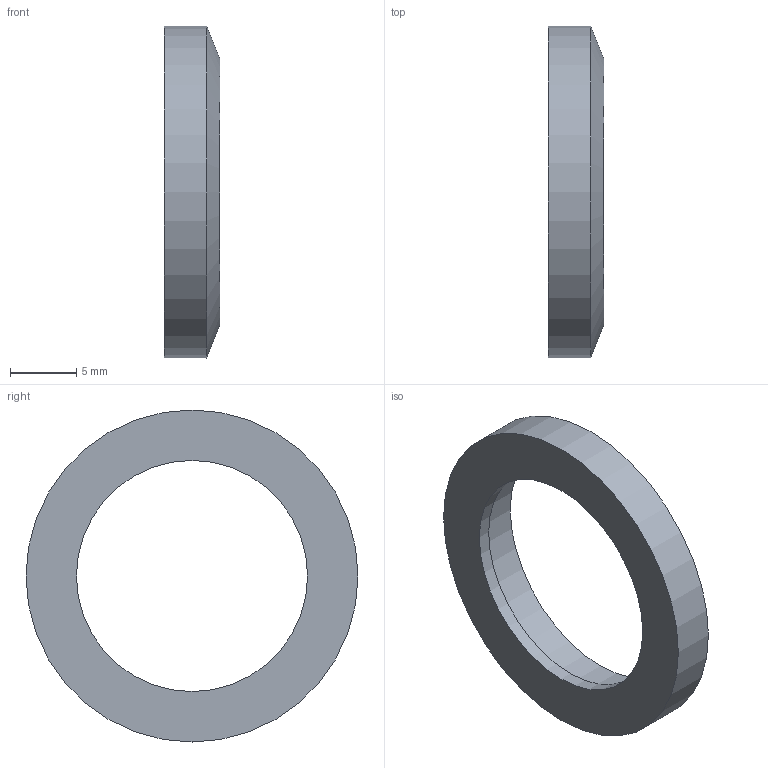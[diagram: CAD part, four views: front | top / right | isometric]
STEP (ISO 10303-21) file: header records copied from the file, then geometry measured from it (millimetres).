
FILE_DESCRIPTION(/* description */ (''),/* implementation_level */ '2;1');
FILE_NAME(/* name */ '4-22-2 Wheel cap ring.step',/* time_stamp */ '2025-05-10T22:18:14+02:00',/* author */ (''),/* organization */ (''),/* preprocessor_version */ 'ST-DEVELOPER v20.1',/* originating_system */ 'Autodesk Translation Framework v14.4.0.0',/* authorisation */ '');
FILE_SCHEMA (('AUTOMOTIVE_DESIGN { 1 0 10303 214 3 1 1 }'));
Length unit declared in the file: millimetre
Products named in the file (1): Wheel cap ring
Bounding box: 4.2 x 25 x 25 mm (x, y, z)
Volume: 805.8 mm3; surface area: 1018.8 mm2
Topology: 1 solids, 1 shells, 7 faces, 11 edges, 7 vertices
Faces by surface type: plane 3, cylinder 3, cone 1
Full cylindrical faces by diameter (mm): 17.4 x1, 19.2 x1, 25 x1
Entity records: 208 total; most frequent: DIRECTION 34, CARTESIAN_POINT 26, ORIENTED_EDGE 22, AXIS2_PLACEMENT_3D 15, EDGE_CURVE 11, EDGE_LOOP 10, FACE_OUTER_BOUND 7, CIRCLE 7
